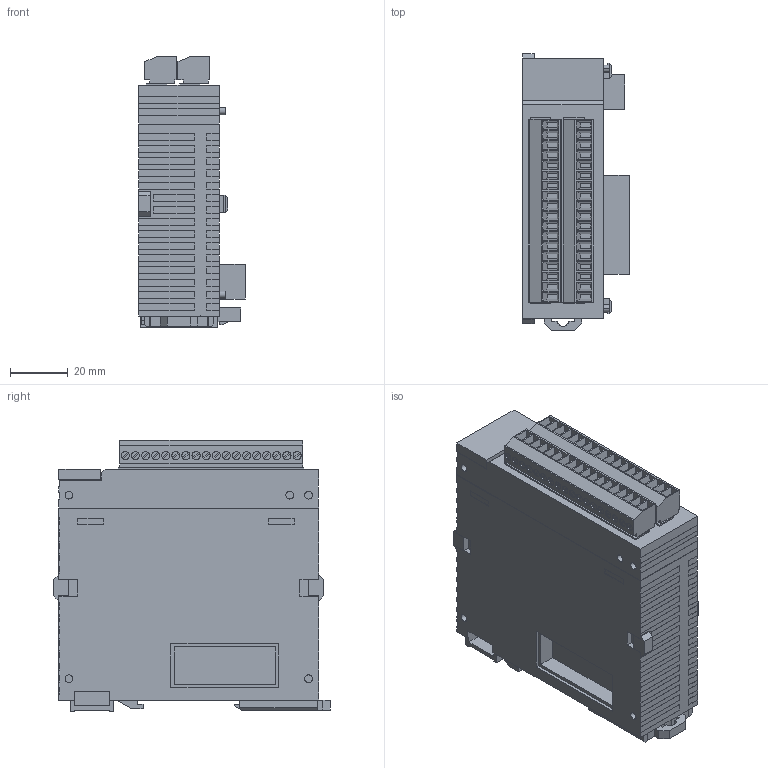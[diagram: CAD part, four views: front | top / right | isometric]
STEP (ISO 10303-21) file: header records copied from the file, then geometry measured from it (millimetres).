
FILE_DESCRIPTION (( 'STEP AP203' ), '1' );
FILE_NAME ('afp7tc8.STEP', '2014-03-12T04:57:32', ( '' ), ( '' ), 'SwSTEP 2.0', 'SolidWorks 2010', '' );
FILE_SCHEMA (( 'CONFIG_CONTROL_DESIGN' ));
Length unit declared in the file: millimetre
Products named in the file (3): afp7tc8_afp7tc8; connector_18; afp7tc8
Assembly tree (3 placements, depth 2):
  afp7tc8
    connector_18  x2
    afp7tc8_afp7tc8
Bounding box: 37 x 95.75 x 93.95 mm (x, y, z)
Volume: 213154.6 mm3; surface area: 37839.6 mm2
Topology: 3 solids, 3 shells, 1025 faces, 2736 edges, 1818 vertices
Faces by surface type: plane 929, cylinder 96
Entity records: 25093 total; most frequent: CARTESIAN_POINT 4407, ORIENTED_EDGE 4332, DIRECTION 3964, EDGE_CURVE 2166, LINE 1974, VECTOR 1974, VERTEX_POINT 1438, AXIS2_PLACEMENT_3D 995
